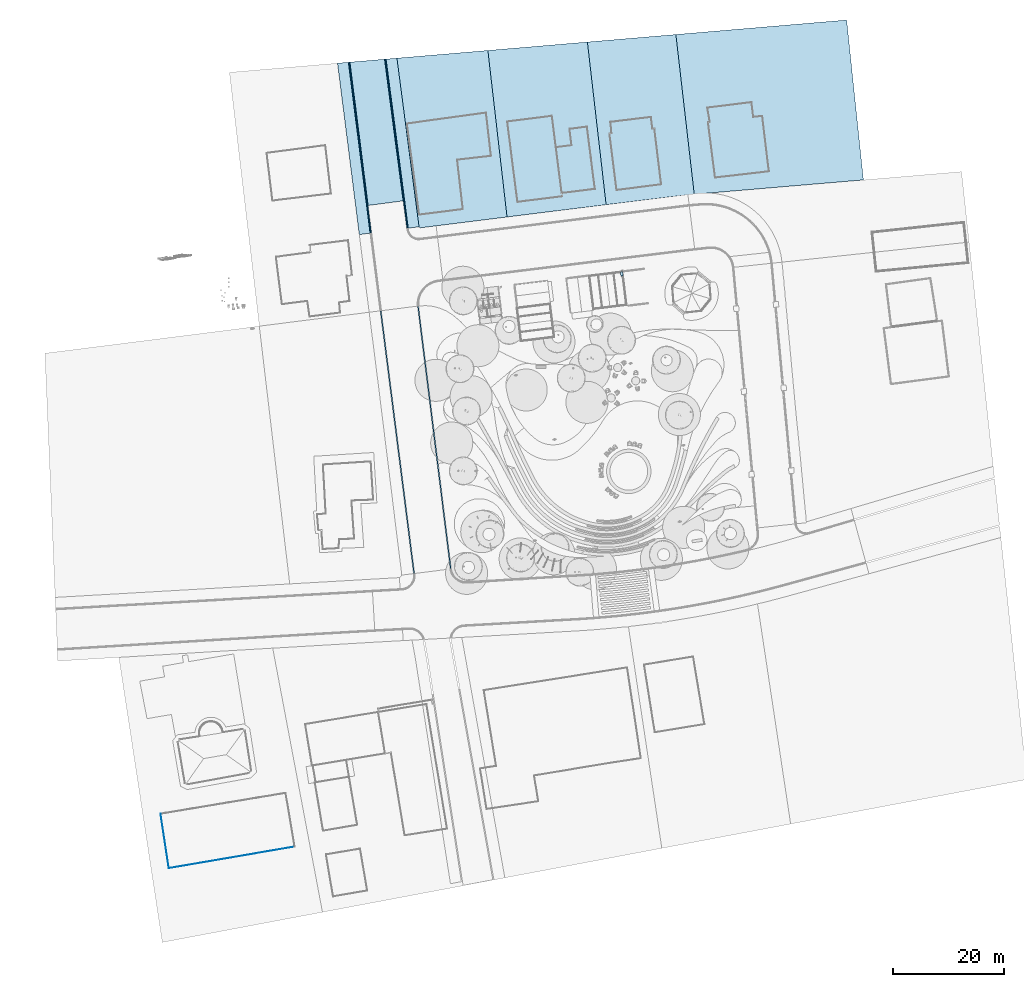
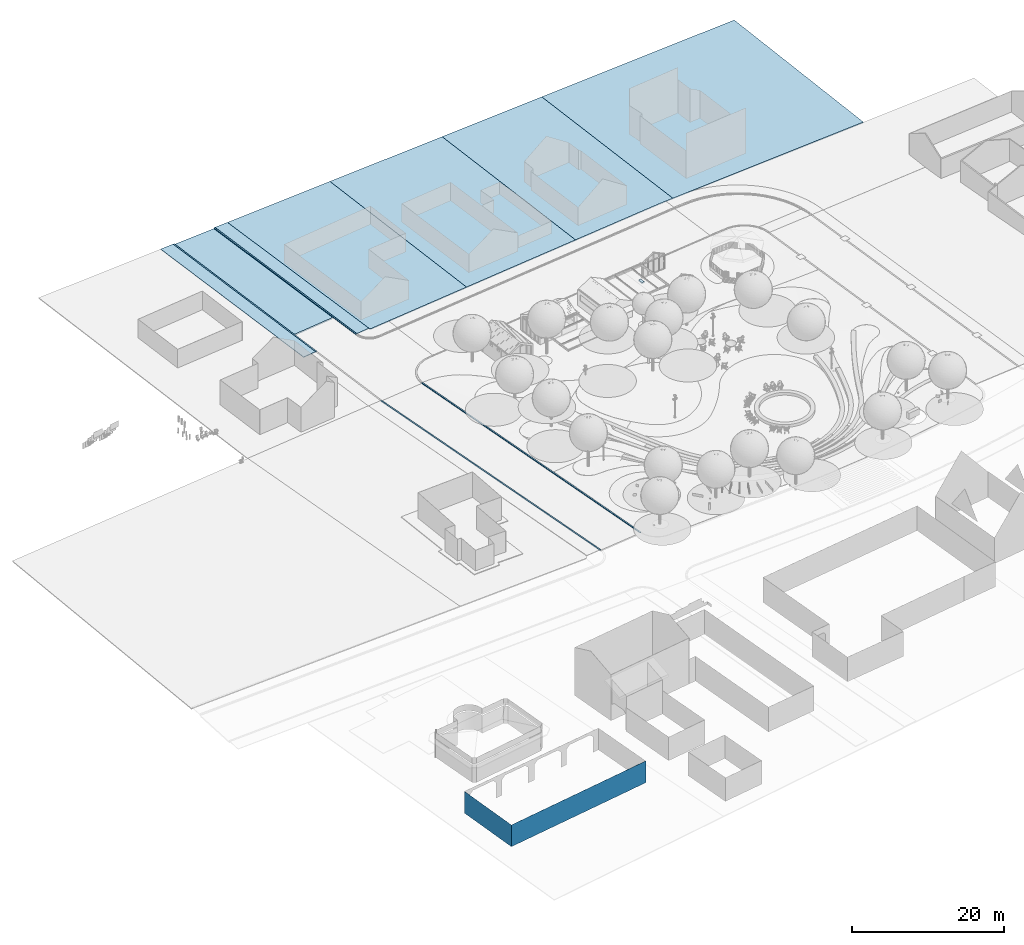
# One storey, part 17 of 75: 11 slabs, 2 walls.
"""IFC2X3 building model written with IfcOpenShell, lengths in metres."""

from ifc_helpers import new_model, entity, si_unit, converted_unit, derived_unit, direction, frame, frame_2d, origin, place, context, subcontext, project, spatial, polyline, circle_curve, parameter, trimmed, segment, composite_curve, rectangle, outline, extrude, clip, bounded_halfspace, faceted_brep, material, layer, layer_set, layer_usage, type_object, element, save


model = new_model("IFC2X3")

# Units and contexts
model_context = context("Model", 3, precision=1e-05, world=origin(), true_north=direction((6.123031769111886e-17, 1.0)))
body_context = subcontext(model_context, "Body", "Model", "MODEL_VIEW")
ifc_project = project(units=[si_unit("LENGTHUNIT", "METRE"), si_unit("AREAUNIT", "SQUARE_METRE"), si_unit("VOLUMEUNIT", "CUBIC_METRE"), converted_unit("PLANEANGLEUNIT", "DEGREE", entity("IfcRatioMeasure", 0.017453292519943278), si_unit("PLANEANGLEUNIT", "RADIAN"), dimensions=[0, 0, 0, 0, 0, 0, 0]), si_unit("MASSUNIT", "GRAM", prefix="KILO"), derived_unit("MASSDENSITYUNIT", [(si_unit("MASSUNIT", "GRAM", prefix="KILO"), 1), (si_unit("LENGTHUNIT", "METRE"), -3)]), derived_unit("IONCONCENTRATIONUNIT", [(si_unit("MASSUNIT", "GRAM", prefix="KILO"), 1), (si_unit("LENGTHUNIT", "METRE"), -3)]), derived_unit("MOMENTOFINERTIAUNIT", [(si_unit("LENGTHUNIT", "METRE"), 4)]), si_unit("TIMEUNIT", "SECOND"), si_unit("FREQUENCYUNIT", "HERTZ"), si_unit("THERMODYNAMICTEMPERATUREUNIT", "DEGREE_CELSIUS"), derived_unit("THERMALTRANSMITTANCEUNIT", [(si_unit("MASSUNIT", "GRAM", prefix="KILO"), 1), (si_unit("THERMODYNAMICTEMPERATUREUNIT", "KELVIN"), -1), (si_unit("TIMEUNIT", "SECOND"), -3)]), derived_unit("THERMALCONDUCTANCEUNIT", [(si_unit("MASSUNIT", "GRAM", prefix="KILO"), 1), (si_unit("THERMODYNAMICTEMPERATUREUNIT", "KELVIN"), -1), (si_unit("TIMEUNIT", "SECOND"), -3), (si_unit("LENGTHUNIT", "METRE"), 1)]), derived_unit("VOLUMETRICFLOWRATEUNIT", [(si_unit("LENGTHUNIT", "METRE"), 3), (si_unit("TIMEUNIT", "SECOND"), -1)]), derived_unit("MASSFLOWRATEUNIT", [(si_unit("MASSUNIT", "GRAM", prefix="KILO"), 1), (si_unit("TIMEUNIT", "SECOND"), -1)]), derived_unit("ROTATIONALFREQUENCYUNIT", [(si_unit("TIMEUNIT", "SECOND"), -1)]), si_unit("ELECTRICCURRENTUNIT", "AMPERE"), si_unit("ELECTRICVOLTAGEUNIT", "VOLT"), si_unit("POWERUNIT", "WATT"), si_unit("FORCEUNIT", "NEWTON", prefix="KILO"), si_unit("ILLUMINANCEUNIT", "LUX"), si_unit("LUMINOUSFLUXUNIT", "LUMEN"), si_unit("LUMINOUSINTENSITYUNIT", "CANDELA"), derived_unit("USERDEFINED", [(si_unit("MASSUNIT", "GRAM", prefix="KILO"), -1), (si_unit("LENGTHUNIT", "METRE"), -2), (si_unit("TIMEUNIT", "SECOND"), 3), (si_unit("LUMINOUSFLUXUNIT", "LUMEN"), 1)]), derived_unit("USERDEFINED", [(si_unit("MASSUNIT", "GRAM", prefix="KILO"), 1), (si_unit("TIMEUNIT", "SECOND"), -3), (si_unit("LENGTHUNIT", "METRE"), 3), (si_unit("ELECTRICCURRENTUNIT", "AMPERE"), -2)]), derived_unit("SOUNDPOWERUNIT", [(si_unit("MASSUNIT", "GRAM", prefix="KILO"), 1), (si_unit("TIMEUNIT", "SECOND"), -3), (si_unit("LENGTHUNIT", "METRE"), 2)]), derived_unit("SOUNDPRESSUREUNIT", [(si_unit("MASSUNIT", "GRAM", prefix="KILO"), 1), (si_unit("LENGTHUNIT", "METRE"), -1), (si_unit("TIMEUNIT", "SECOND"), -2)]), derived_unit("LINEARVELOCITYUNIT", [(si_unit("LENGTHUNIT", "METRE"), 1), (si_unit("TIMEUNIT", "SECOND"), -1)]), si_unit("PRESSUREUNIT", "PASCAL"), derived_unit("USERDEFINED", [(si_unit("MASSUNIT", "GRAM", prefix="KILO"), 1), (si_unit("LENGTHUNIT", "METRE"), -2), (si_unit("TIMEUNIT", "SECOND"), -2)]), derived_unit("LINEARFORCEUNIT", [(si_unit("MASSUNIT", "GRAM", prefix="KILO"), 1), (si_unit("TIMEUNIT", "SECOND"), -2)]), derived_unit("PLANARFORCEUNIT", [(si_unit("MASSUNIT", "GRAM", prefix="KILO"), 1), (si_unit("LENGTHUNIT", "METRE"), -1), (si_unit("TIMEUNIT", "SECOND"), -2)]), derived_unit("SPECIFICHEATCAPACITYUNIT", [(si_unit("THERMODYNAMICTEMPERATUREUNIT", "KELVIN"), -1), (si_unit("LENGTHUNIT", "METRE"), 2), (si_unit("TIMEUNIT", "SECOND"), -2)]), derived_unit("HEATINGVALUEUNIT", [(si_unit("LENGTHUNIT", "METRE"), 2), (si_unit("TIMEUNIT", "SECOND"), -2)]), derived_unit("VAPORPERMEABILITYUNIT", [(si_unit("LENGTHUNIT", "METRE"), -1), (si_unit("TIMEUNIT", "SECOND"), 1)]), derived_unit("DYNAMICVISCOSITYUNIT", [(si_unit("MASSUNIT", "GRAM", prefix="KILO"), 1), (si_unit("TIMEUNIT", "SECOND"), -1), (si_unit("LENGTHUNIT", "METRE"), -1)]), derived_unit("THERMALEXPANSIONCOEFFICIENTUNIT", [(si_unit("THERMODYNAMICTEMPERATUREUNIT", "KELVIN"), -1)]), derived_unit("MODULUSOFELASTICITYUNIT", [(si_unit("MASSUNIT", "GRAM", prefix="KILO"), 1), (si_unit("LENGTHUNIT", "METRE"), -1), (si_unit("TIMEUNIT", "SECOND"), -2)]), derived_unit("ISOTHERMALMOISTURECAPACITYUNIT", [(si_unit("LENGTHUNIT", "METRE"), 3), (si_unit("MASSUNIT", "GRAM", prefix="KILO"), -1)]), derived_unit("MOISTUREDIFFUSIVITYUNIT", [(si_unit("TIMEUNIT", "SECOND"), -1), (si_unit("LENGTHUNIT", "METRE"), 2)])], contexts=[model_context])

# Site, building, storey
site_placement = place(None, origin())
site = spatial("IfcSite", under=ifc_project, at=site_placement, Name="Default", CompositionType="ELEMENT")
building_placement = place(site_placement, origin())
building = spatial("IfcBuilding", under=site, at=building_placement, Name="Projeto", CompositionType="ELEMENT")
storey_placement = place(building_placement, origin())
storey = spatial("IfcBuildingStorey", under=building, at=storey_placement, Name="Nível 1", CompositionType="ELEMENT", Elevation=0.0)

# Slabs
ifc_material_1 = material(Name="Piso CAJOI PASSEIO(1)")
ifc_layer_1 = layer(ifc_material_1, 0.1)
ifc_layer_set_1 = layer_set([ifc_layer_1], Name="Piso:Basalto Flameado 40x20 (Passeio)")
ifc_layer_usage_1 = layer_usage(ifc_layer_set_1, "AXIS3", "POSITIVE", 0.0)
slab_type_1 = type_object("IfcSlabType", Name="Piso:Basalto Flameado 40x20 (Passeio)", PredefinedType="FLOOR", material=ifc_layer_set_1)
slab_1_placement = place(storey_placement, origin())
element("IfcSlab", 1, at=slab_1_placement, inside=storey, type_object=slab_type_1, material=ifc_layer_usage_1, Name="Piso:Basalto Flameado 40x20 (Passeio)", ObjectType="Piso:Basalto Flameado 40x20 (Passeio)", PredefinedType="FLOOR", context=body_context, shape_type="SweptSolid", body=[
    extrude(outline(polyline([(-1.7035376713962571, -15.334648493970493), (0.2985598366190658, -15.334648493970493), (1.7014412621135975, 15.288885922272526), (-0.2964634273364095, 15.380411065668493), (-1.7035376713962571, -15.334648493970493)])), frame((-32.06249841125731, 58.64740909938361, -2.6), z_axis=(0.0, 0.0, -1.0), x_axis=(0.9964213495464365, 0.08452510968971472, 0.0)), (0.0, 0.0, 1.0), 0.1),
])
slab_2_placement = place(storey_placement, origin())
element("IfcSlab", 2, at=slab_2_placement, inside=storey, type_object=slab_type_1, material=ifc_layer_usage_1, Name="Piso:Basalto Flameado 40x20 (Passeio)", ObjectType="Piso:Basalto Flameado 40x20 (Passeio)", PredefinedType="FLOOR", context=body_context, shape_type="SweptSolid", body=[
    extrude(outline(polyline([(-15.50925908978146, -1.0), (15.546841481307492, -1.0), (15.555061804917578, 1.0), (-15.592644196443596, 1.0), (-15.50925908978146, -1.0)])), frame((-40.8132392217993, 57.70156204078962, -2.6), z_axis=(0.0, 0.0, -1.0), x_axis=(0.1259590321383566, -0.9920354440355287, 0.0)), (0.0, 0.0, 1.0), 0.1),
])
ifc_material_2 = material(Name="Concreto, Faixa de areia/cimento")
ifc_layer_2 = layer(ifc_material_2, 0.05)
ifc_material_3 = material(Name="Concreto, Moldado no local")
ifc_layer_3 = layer(ifc_material_3, 0.17500000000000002)
ifc_layer_set_2 = layer_set([ifc_layer_2, ifc_layer_3], Name="Piso:Concreto moldado em loco 225 mm")
ifc_layer_usage_2 = layer_usage(ifc_layer_set_2, "AXIS3", "POSITIVE", 0.0)
slab_type_2 = type_object("IfcSlabType", Name="Piso:Concreto moldado em loco 225 mm", PredefinedType="FLOOR", material=ifc_layer_set_2)
slab_3_placement = place(storey_placement, origin())
element("IfcSlab", 3, at=slab_3_placement, inside=storey, type_object=slab_type_2, material=ifc_layer_usage_2, Name="Piso:Concreto moldado em loco 225 mm", ObjectType="Piso:Concreto moldado em loco 225 mm", PredefinedType="FLOOR", context=body_context, shape_type="SweptSolid", body=[
    extrude(outline(polyline([(-3.7371150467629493, -12.938449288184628), (2.605263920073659, -12.938449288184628), (3.783945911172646, 12.791029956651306), (-2.6520947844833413, 13.085868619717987), (-3.7371150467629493, -12.938449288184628)])), frame((-36.757912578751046, 60.65390846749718, -2.72), z_axis=(0.0, 0.0, -1.0), x_axis=(0.9964213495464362, 0.08452510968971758, 0.0)), (0.0, 0.0, 1.0), 0.22499999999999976),
])
ifc_material_4 = material(Name="Concreto moldado In loco")
ifc_layer_4 = layer(ifc_material_4, 0.12)
ifc_layer_set_3 = layer_set([ifc_layer_4], Name="Piso:meio fio de concreto")
slab_type_3 = type_object("IfcSlabType", Name="Piso:meio fio de concreto", PredefinedType="FLOOR", material=ifc_layer_set_3)
slab_4_placement = place(storey_placement, origin())
element("IfcSlab", 4, at=slab_4_placement, inside=storey, type_object=slab_type_3, material=ifc_material_4, Name="Piso:meio fio de concreto", ObjectType="Piso:meio fio de concreto", PredefinedType="FLOOR", context=body_context, shape_type="Brep", body=[
    faceted_brep([(-29.87083707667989, -18.9523357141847, -0.12017774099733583), (-30.06925443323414, -18.97744665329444, -0.12017774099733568), (-36.08409002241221, 28.394544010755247, -2.720177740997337), (-35.88567266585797, 28.419654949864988, -2.720177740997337), (-29.87083707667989, -18.9523357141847, 0.0), (-30.06925443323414, -18.97744665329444, 0.0), (-36.08409002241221, 28.394544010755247, -2.5999999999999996), (-35.88567266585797, 28.419654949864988, -2.5999999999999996), (-35.88567266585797, 28.419654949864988, -2.72)], [[[0, 1, 2, 3]], [[1, 0, 4, 5]], [[2, 1, 5, 6]], [[3, 2, 6, 7, 8]], [[0, 3, 8, 7, 4]], [[5, 4, 7, 6]]]),
    faceted_brep([(-29.15505713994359, 29.271455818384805, -2.6), (-29.35347496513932, 29.24634481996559, -2.5999999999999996), (-23.46270829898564, -18.141347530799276, 0.0), (-23.264290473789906, -18.116236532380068, 0.0), (-29.15505713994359, 29.271455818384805, -2.7201777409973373), (-29.351473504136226, 29.246598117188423, -2.720177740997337), (-29.35347496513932, 29.24634481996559, -2.720177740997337), (-29.35347496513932, 29.24634481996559, -2.72), (-23.264290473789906, -18.116236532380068, -0.12017774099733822), (-23.46270829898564, -18.141347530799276, -0.12017774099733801)], [[[0, 1, 2, 3]], [[1, 0, 4, 5, 6, 7]], [[8, 4, 0, 3]], [[9, 8, 3, 2]], [[6, 9, 2, 1, 7]], [[4, 8, 9, 6, 5]]]),
])
ifc_material_5 = material(Name="<Unnamed>")
ifc_layer_5 = layer(ifc_material_5, 0.14999999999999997)
ifc_layer_set_4 = layer_set([ifc_layer_5], Name="Piso:Genérico 150 mm")
ifc_layer_usage_3 = layer_usage(ifc_layer_set_4, "AXIS3", "POSITIVE", 0.0)
slab_type_4 = type_object("IfcSlabType", Name="Piso:Genérico 150 mm", PredefinedType="FLOOR", material=ifc_layer_set_4)
slab_5_placement = place(storey_placement, origin())
element("IfcSlab", 5, at=slab_5_placement, inside=storey, type_object=slab_type_4, material=ifc_layer_usage_3, Name="Piso:Genérico 150 mm", ObjectType="Piso:Genérico 150 mm", PredefinedType="FLOOR", context=body_context, shape_type="SweptSolid", body=[
    extrude(outline(polyline([(-14.192105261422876, -15.374519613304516), (14.80058791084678, -15.374519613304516), (14.195017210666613, 15.227367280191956), (-14.803499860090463, 15.521671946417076), (-14.192105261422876, -15.374519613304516)])), frame((34.20464477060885, 65.11292386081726, -2.6), z_axis=(0.0, 0.0, -1.0), x_axis=(0.10422256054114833, -0.9945539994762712, 0.0)), (0.0, 0.0, 1.0), 0.15),
])
slab_6_placement = place(storey_placement, origin())
element("IfcSlab", 6, at=slab_6_placement, inside=storey, type_object=slab_type_4, material=ifc_layer_usage_3, Name="Piso:Genérico 150 mm", ObjectType="Piso:Genérico 150 mm", PredefinedType="FLOOR", context=body_context, shape_type="SweptSolid", body=[
    extrude(outline(polyline([(-19.25077171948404, -6.192769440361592), (9.749238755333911, -6.192769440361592), (9.716617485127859, -5.103347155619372), (9.71055110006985, -2.1235967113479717), (9.804204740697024, 9.806241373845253), (-19.729840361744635, 9.80624137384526), (-19.25077171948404, -6.192769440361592)])), frame((13.273031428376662, 58.385613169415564, -2.6), z_axis=(0.0, 0.0, -1.0), x_axis=(0.11431035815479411, -0.993445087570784, 0.0)), (0.0, 0.0, 1.0), 0.15000000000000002),
])
slab_7_placement = place(storey_placement, origin())
element("IfcSlab", 7, at=slab_7_placement, inside=storey, type_object=slab_type_4, material=ifc_layer_usage_3, Name="Piso:Genérico 150 mm", ObjectType="Piso:Genérico 150 mm", PredefinedType="FLOOR", context=body_context, shape_type="SweptSolid", body=[
    extrude(outline(polyline([(-17.66110991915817, -9.432059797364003), (11.8729351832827, -9.432059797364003), (11.960568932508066, 1.73094926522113), (12.027660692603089, 8.566585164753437), (-18.200054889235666, 8.566585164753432), (-17.66110991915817, -9.432059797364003)])), frame((-6.075641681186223, 58.241646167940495, -2.6), z_axis=(0.0, 0.0, -1.0), x_axis=(0.11431035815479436, -0.993445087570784, 0.0)), (0.0, 0.0, 1.0), 0.15000000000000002),
])
slab_8_placement = place(storey_placement, origin())
element("IfcSlab", 8, at=slab_8_placement, inside=storey, type_object=slab_type_4, material=ifc_layer_usage_3, Name="Piso:Genérico 150 mm", ObjectType="Piso:Genérico 150 mm", PredefinedType="FLOOR", context=body_context, shape_type="SweptSolid", body=[
    extrude(outline(composite_curve([segment(polyline([(-18.055379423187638, -9.63115484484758), (12.172336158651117, -9.631154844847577)]), True, "CONTINUOUS"), segment(polyline([(12.17233615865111, -9.631154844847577), (12.326914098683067, 6.117999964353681)]), True, "CONTINUOUS"), segment(trimmed(circle_curve(frame_2d((11.970211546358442, 5.964925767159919), x_axis=(0.9189568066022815, 0.3943581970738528)), 0.38816030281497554), [parameter(0.0)], [parameter(46.61750616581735)], True, "PARAMETER"), True, "CONTINUOUS"), segment(polyline([(12.103966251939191, 6.329313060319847), (-18.547837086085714, 6.814996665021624)]), True, "CONTINUOUS"), segment(polyline([(-18.5478370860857, 6.814996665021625), (-18.055379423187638, -9.63115484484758)]), True, "CONTINUOUS")], self_intersect=False)), frame((-24.170635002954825, 56.305183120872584, -2.6), z_axis=(0.0, 0.0, -1.0), x_axis=(0.11431035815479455, -0.993445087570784, 0.0)), (0.0, 0.0, 1.0), 0.15000000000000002),
])
ifc_material_6 = material(Name=".ARQ.RVE - ARDÓSIA 3")
ifc_layer_6 = layer(ifc_material_6, 0.12)
ifc_layer_set_5 = layer_set([ifc_layer_6], Name="Piso:Piso Ardósia 3")
ifc_layer_usage_4 = layer_usage(ifc_layer_set_5, "AXIS3", "POSITIVE", 0.0)
slab_type_5 = type_object("IfcSlabType", Name="Piso:Piso Ardósia 3", PredefinedType="FLOOR", material=ifc_layer_set_5)
slab_9_placement = place(storey_placement, origin())
element("IfcSlab", 9, at=slab_9_placement, inside=storey, type_object=slab_type_5, material=ifc_layer_usage_4, Name="Piso:Piso Ardósia 3", ObjectType="Piso:Piso Ardósia 3", PredefinedType="FLOOR", context=body_context, shape_type="SweptSolid", body=[
    extrude(outline(polyline([(-15.371345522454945, -0.10000000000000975), (15.375926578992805, -0.10000000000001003), (15.375926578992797, 0.09999999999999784), (-15.380507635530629, 0.10000000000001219), (-15.371345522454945, -0.10000000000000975)])), frame((-33.15643505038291, 58.52935208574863, -2.6), z_axis=(0.0, 0.0, -1.0), x_axis=(0.13003535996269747, -0.9915093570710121, 0.0)), (0.0, 0.0, 1.0), 0.11999999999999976),
])
slab_10_placement = place(storey_placement, origin())
element("IfcSlab", 10, at=slab_10_placement, inside=storey, type_object=slab_type_5, material=ifc_layer_usage_4, Name="Piso:Piso Ardósia 3", ObjectType="Piso:Piso Ardósia 3", PredefinedType="FLOOR", context=body_context, shape_type="SweptSolid", body=[
    extrude(outline(polyline([(-15.521590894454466, -0.09999999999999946), (15.525349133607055, -0.0999999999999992), (15.526171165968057, 0.10000000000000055), (-15.52992940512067, 0.0999999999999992), (-15.521590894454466, -0.09999999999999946)])), frame((-39.71939662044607, 57.81961129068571, -2.6), z_axis=(0.0, 0.0, -1.0), x_axis=(0.1259590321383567, -0.9920354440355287, 0.0)), (0.0, 0.0, 1.0), 0.11999999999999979),
])
ifc_material_7 = material(Name="floração tipo 2(1)")
ifc_layer_7 = layer(ifc_material_7, 0.04)
ifc_material_8 = material(Name="floração tipo 2")
ifc_layer_8 = layer(ifc_material_8, 0.16)
ifc_layer_set_6 = layer_set([ifc_layer_7, ifc_layer_8], Name="Piso:Glicinia")
ifc_layer_usage_5 = layer_usage(ifc_layer_set_6, "AXIS3", "POSITIVE", 0.0)
slab_type_6 = type_object("IfcSlabType", Name="Piso:Glicinia", PredefinedType="FLOOR", material=ifc_layer_set_6)
slab_11_placement = place(storey_placement, origin())
element("IfcSlab", 11, at=slab_11_placement, inside=storey, type_object=slab_type_6, material=ifc_layer_usage_5, Name="Piso:Glicinia", ObjectType="Piso:Glicinia", PredefinedType="FLOOR", context=body_context, shape_type="SweptSolid", body=[
    extrude(rectangle(XDim=0.7999999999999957, YDim=0.3999999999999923, at=frame_2d((-2.1371793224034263e-15, -2.636779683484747e-16), x_axis=(1.0, 0.0))), frame((7.464140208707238, 35.04683581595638, -2.5999999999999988), z_axis=(0.0, 0.0, -1.0), x_axis=(0.12215242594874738, -0.9925113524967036, 0.0)), (0.0, 0.0, 1.0), 0.19999999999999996),
])

# Walls
ifc_material_9 = material(Name="Metal")
ifc_layer_9 = layer(ifc_material_9, 0.01)
ifc_layer_set_7 = layer_set([ifc_layer_9], Name="Parede básica:JA_Aluminio")
ifc_layer_usage_6 = layer_usage(ifc_layer_set_7, "AXIS2", "NEGATIVE", 0.005)
wall_type = type_object("IfcWallType", Name="Parede básica:JA_Aluminio", PredefinedType="STANDARD", material=ifc_layer_set_7)
wall_1_placement = place(storey_placement, frame((-75.6669117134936, -62.292280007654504, -0.1), z_axis=(0.0, 0.0, 1.0), x_axis=(0.1506840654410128, -0.9885819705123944, 0.0)))
element("IfcWallStandardCase", 12, at=wall_1_placement, inside=storey, type_object=wall_type, material=ifc_layer_usage_6, Name="Parede básica:JA_Aluminio", ObjectType="Parede básica:JA_Aluminio", context=body_context, shape_type="Clipping", body=[
    clip(extrude(outline(polyline([(9.911131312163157, -0.004999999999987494), (9.910948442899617, 0.005000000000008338), (9.900946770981, 0.005000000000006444), (0.0, 0.005000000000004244), (0.00013619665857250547, -0.004999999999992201), (9.911131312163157, -0.004999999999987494)])), origin(), (0.0, 0.0, 1.0), 3.5000000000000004), bounded_halfspace(frame((0.00013619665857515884, -0.004999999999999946, 3.5000000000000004), z_axis=(0.0, 0.0, -1.0), x_axis=(-1.0, 0.0, 0.0)), True, frame((0.00013619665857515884, -0.004999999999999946, 3.5000000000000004)), polyline([(0.0, 0.0), (9.910995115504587, 0.0), (9.910812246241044, 0.01000000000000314), (9.90081057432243, 0.009999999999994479), (-0.000136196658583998, 0.009999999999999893), (0.0, 0.0)]))),
])
wall_2_placement = place(storey_placement, frame((-74.16939046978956, -72.08438322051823, -0.1), z_axis=(0.0, 0.0, 1.0), x_axis=(0.9856616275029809, 0.16873398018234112, 0.0)))
element("IfcWallStandardCase", 13, at=wall_2_placement, inside=storey, type_object=wall_type, material=ifc_layer_usage_6, Name="Parede básica:JA_Aluminio", ObjectType="Parede básica:JA_Aluminio", context=body_context, shape_type="Clipping", body=[
    clip(extrude(outline(polyline([(23.028142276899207, -0.0049999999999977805), (23.028161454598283, 0.005000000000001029), (23.01816143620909, 0.005000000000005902), (0.0001828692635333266, 0.005000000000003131), (0.0, -0.0050000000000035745), (23.028142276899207, -0.0049999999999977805)])), origin(), (0.0, 0.0, 1.0), 3.5000000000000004), bounded_halfspace(frame((0.0, -0.004999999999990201, 3.5000000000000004), z_axis=(0.0, 0.0, -1.0), x_axis=(0.0182838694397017, 0.999832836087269, 0.0)), True, frame((0.0, -0.004999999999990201, 3.5000000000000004)), polyline([(0.0, 0.0), (23.028142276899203, 0.0), (23.02816145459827, 0.009999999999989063), (23.01816143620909, 0.009999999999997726), (0.0001828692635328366, 0.009999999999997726), (0.0, 0.0)]))),
])

save(model, "model.ifc")
